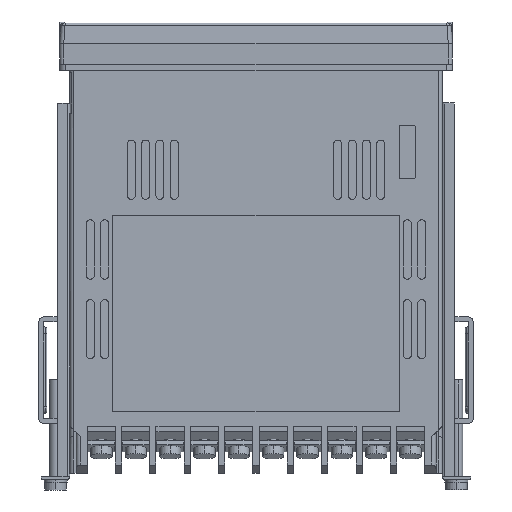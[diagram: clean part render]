
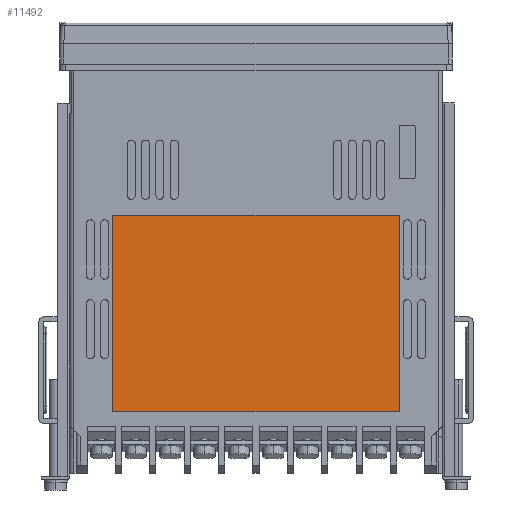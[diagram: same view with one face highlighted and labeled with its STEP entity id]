
A CAD part, left-side view. The second image highlights one B-rep face of the part: STEP entity #11492.
In plain terms, the highlighted planar face has unit normal (-1, 0, 0).
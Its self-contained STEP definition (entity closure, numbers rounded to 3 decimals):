
#3265 = DIRECTION ( 'NONE',  ( 0., 0., 1. ) ) ;
#3703 = EDGE_CURVE ( 'NONE', #39274, #34044, #42418, .T. ) ;
#8367 = FACE_OUTER_BOUND ( 'NONE', #40176, .T. ) ;
#9205 = EDGE_CURVE ( 'NONE', #34044, #18956, #49884, .T. ) ;
#11056 = LINE ( 'NONE', #29246, #44491 ) ;
#11480 = CARTESIAN_POINT ( 'NONE',  ( -21.95, -35., -37. ) ) ;
#11492 = ADVANCED_FACE ( 'NONE', ( #8367 ), #22820, .T. ) ;
#12373 = VERTEX_POINT ( 'NONE', #11480 ) ;
#15137 = CARTESIAN_POINT ( 'NONE',  ( -21.95, 35., -85. ) ) ;
#15590 = DIRECTION ( 'NONE',  ( 0., -1., 0. ) ) ;
#18956 = VERTEX_POINT ( 'NONE', #45249 ) ;
#22106 = ORIENTED_EDGE ( 'NONE', *, *, #40401, .T. ) ;
#22820 = PLANE ( 'NONE',  #24648 ) ;
#24648 = AXIS2_PLACEMENT_3D ( 'NONE', #52606, #27837, #3265 ) ;
#24770 = CARTESIAN_POINT ( 'NONE',  ( -21.95, 35., -37. ) ) ;
#27837 = DIRECTION ( 'NONE',  ( -1., 0., 0. ) ) ;
#29246 = CARTESIAN_POINT ( 'NONE',  ( -21.95, -35., -85. ) ) ;
#34044 = VERTEX_POINT ( 'NONE', #60541 ) ;
#39274 = VERTEX_POINT ( 'NONE', #24770 ) ;
#40176 = EDGE_LOOP ( 'NONE', ( #43237, #56167, #22106, #51465 ) ) ;
#40401 = EDGE_CURVE ( 'NONE', #12373, #39274, #59955, .T. ) ;
#42418 = LINE ( 'NONE', #48090, #61820 ) ;
#43065 = CARTESIAN_POINT ( 'NONE',  ( -21.95, -35., -37. ) ) ;
#43237 = ORIENTED_EDGE ( 'NONE', *, *, #9205, .T. ) ;
#43930 = DIRECTION ( 'NONE',  ( 0., 0., -1. ) ) ;
#44491 = VECTOR ( 'NONE', #59252, 1000. ) ;
#45249 = CARTESIAN_POINT ( 'NONE',  ( -21.95, -35., -85. ) ) ;
#48090 = CARTESIAN_POINT ( 'NONE',  ( -21.95, 35., -37. ) ) ;
#49884 = LINE ( 'NONE', #15137, #60776 ) ;
#51465 = ORIENTED_EDGE ( 'NONE', *, *, #3703, .T. ) ;
#52606 = CARTESIAN_POINT ( 'NONE',  ( -21.95, 0., 0. ) ) ;
#53051 = DIRECTION ( 'NONE',  ( 0., 1., 0. ) ) ;
#56167 = ORIENTED_EDGE ( 'NONE', *, *, #56742, .T. ) ;
#56742 = EDGE_CURVE ( 'NONE', #18956, #12373, #11056, .T. ) ;
#58401 = VECTOR ( 'NONE', #53051, 1000. ) ;
#59252 = DIRECTION ( 'NONE',  ( 0., 0., 1. ) ) ;
#59955 = LINE ( 'NONE', #43065, #58401 ) ;
#60541 = CARTESIAN_POINT ( 'NONE',  ( -21.95, 35., -85. ) ) ;
#60776 = VECTOR ( 'NONE', #15590, 1000. ) ;
#61820 = VECTOR ( 'NONE', #43930, 1000. ) ;
